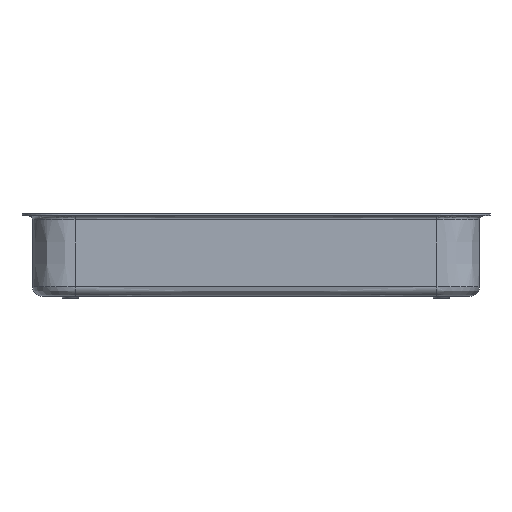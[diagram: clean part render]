
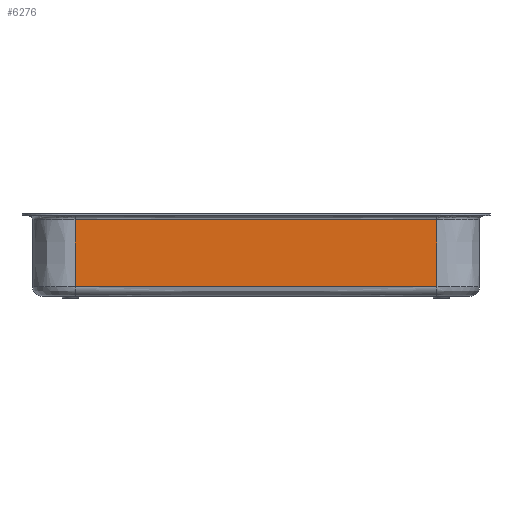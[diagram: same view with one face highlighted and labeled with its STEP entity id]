
A CAD part, left-side view. The second image highlights one B-rep face of the part: STEP entity #6276.
In plain terms, the highlighted free-form (B-spline) face has degree [2, 1] with [3, 2] control points.
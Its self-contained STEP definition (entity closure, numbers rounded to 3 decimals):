
#187=B_SPLINE_SURFACE_WITH_KNOTS('',2,1,((#17507,#17508),(#17509,#17510),
(#17511,#17512)),.UNSPECIFIED.,.F.,.F.,.F.,(3,3),(2,2),(-1.,0.),(0.,5.04),
 .UNSPECIFIED.);
#526=B_SPLINE_CURVE_WITH_KNOTS('',2,(#17513,#17514,#17515),
 .UNSPECIFIED.,.F.,.F.,(3,3),(0.,18.943),.UNSPECIFIED.);
#527=B_SPLINE_CURVE_WITH_KNOTS('',3,(#17516,#17517,#17518,#17519),
 .UNSPECIFIED.,.F.,.F.,(4,4),(0.,18.943),.UNSPECIFIED.);
#958=FACE_OUTER_BOUND('',#1383,.T.);
#1383=EDGE_LOOP('',(#5262,#5263,#5264,#5265));
#1933=LINE('',#17308,#2364);
#1934=LINE('',#17487,#2365);
#2364=VECTOR('',#7560,10.);
#2365=VECTOR('',#7561,10.);
#2924=VERTEX_POINT('',#17251);
#2925=VERTEX_POINT('',#17307);
#2926=VERTEX_POINT('',#17384);
#2927=VERTEX_POINT('',#17443);
#3714=EDGE_CURVE('',#2924,#2925,#1933,.T.);
#3718=EDGE_CURVE('',#2927,#2926,#1934,.T.);
#3723=EDGE_CURVE('',#2924,#2926,#526,.T.);
#3724=EDGE_CURVE('',#2927,#2925,#527,.T.);
#5262=ORIENTED_EDGE('',*,*,#3723,.T.);
#5263=ORIENTED_EDGE('',*,*,#3718,.F.);
#5264=ORIENTED_EDGE('',*,*,#3724,.T.);
#5265=ORIENTED_EDGE('',*,*,#3714,.F.);
#6276=ADVANCED_FACE('',(#958),#187,.T.);
#7560=DIRECTION('',(0.,0.,1.));
#7561=DIRECTION('',(0.,0.,-1.));
#17251=CARTESIAN_POINT('',(-115.053,101.145,-16.015));
#17307=CARTESIAN_POINT('',(-115.053,101.145,18.985));
#17308=CARTESIAN_POINT('',(-115.053,101.145,-16.015));
#17384=CARTESIAN_POINT('',(-115.053,-88.287,-16.015));
#17443=CARTESIAN_POINT('',(-115.053,-88.287,18.985));
#17487=CARTESIAN_POINT('',(-115.053,-88.287,18.985));
#17507=CARTESIAN_POINT('Ctrl Pts',(-115.053,-88.287,
20.985));
#17508=CARTESIAN_POINT('Ctrl Pts',(-115.053,-88.287,
-29.415));
#17509=CARTESIAN_POINT('Ctrl Pts',(-115.053,6.429,20.985));
#17510=CARTESIAN_POINT('Ctrl Pts',(-115.053,6.429,-29.415));
#17511=CARTESIAN_POINT('Ctrl Pts',(-115.053,101.145,20.985));
#17512=CARTESIAN_POINT('Ctrl Pts',(-115.053,101.145,-29.415));
#17513=CARTESIAN_POINT('Ctrl Pts',(-115.053,101.145,-16.015));
#17514=CARTESIAN_POINT('Ctrl Pts',(-115.053,6.429,-16.015));
#17515=CARTESIAN_POINT('Ctrl Pts',(-115.053,-88.287,
-16.015));
#17516=CARTESIAN_POINT('Ctrl Pts',(-115.053,-88.287,
18.985));
#17517=CARTESIAN_POINT('Ctrl Pts',(-115.053,-25.143,
18.985));
#17518=CARTESIAN_POINT('Ctrl Pts',(-115.053,38.001,18.985));
#17519=CARTESIAN_POINT('Ctrl Pts',(-115.053,101.145,18.985));
